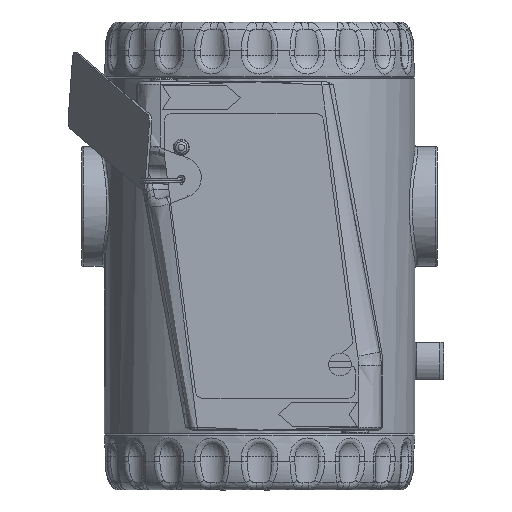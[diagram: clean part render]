
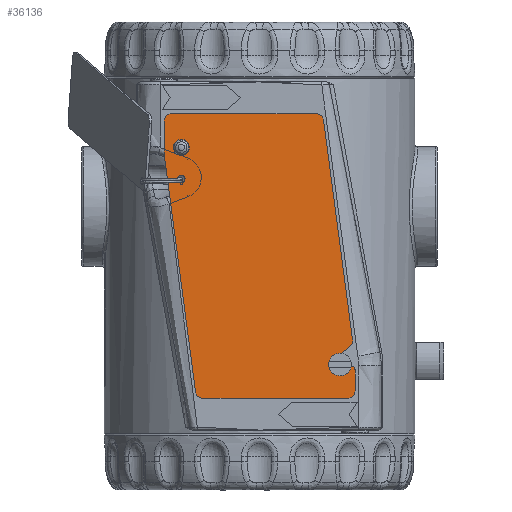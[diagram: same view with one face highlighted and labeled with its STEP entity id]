
A CAD part, left-side view. The second image highlights one B-rep face of the part: STEP entity #36136.
In plain terms, the highlighted planar face has unit normal (-1, 0, 0) as drawn and (0, 0, 1) by its records, which use the part's own axes.
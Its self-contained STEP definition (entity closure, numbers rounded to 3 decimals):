
#1111=PLANE('',#40317);
#1698=FACE_BOUND('',#9521,.T.);
#1699=FACE_BOUND('',#9522,.T.);
#3004=LINE('',#77415,#4625);
#3008=LINE('',#77427,#4629);
#3012=LINE('',#77439,#4633);
#3016=LINE('',#77451,#4637);
#3020=LINE('',#77463,#4641);
#3023=LINE('',#77469,#4644);
#3027=LINE('',#77481,#4648);
#3031=LINE('',#77492,#4652);
#4625=VECTOR('',#48858,10.);
#4629=VECTOR('',#48870,10.);
#4633=VECTOR('',#48882,10.);
#4637=VECTOR('',#48894,10.);
#4641=VECTOR('',#48906,10.);
#4644=VECTOR('',#48911,10.);
#4648=VECTOR('',#48923,10.);
#4652=VECTOR('',#48935,10.);
#7206=FACE_OUTER_BOUND('',#9520,.T.);
#9520=EDGE_LOOP('',(#30549,#30550,#30551,#30552,#30553,#30554,#30555,#30556,
#30557,#30558,#30559,#30560,#30561,#30562,#30563));
#9521=EDGE_LOOP('',(#30564));
#9522=EDGE_LOOP('',(#30565));
#11923=CIRCLE('',#40283,1.35);
#11925=CIRCLE('',#40286,1.);
#11926=CIRCLE('',#40288,2.);
#11928=CIRCLE('',#40292,2.);
#11930=CIRCLE('',#40296,1.);
#11932=CIRCLE('',#40300,2.);
#11934=CIRCLE('',#40304,2.);
#11936=CIRCLE('',#40309,2.);
#11938=CIRCLE('',#40313,2.);
#16320=VERTEX_POINT('',#77395);
#16322=VERTEX_POINT('',#77401);
#16323=VERTEX_POINT('',#77405);
#16324=VERTEX_POINT('',#77406);
#16327=VERTEX_POINT('',#77414);
#16329=VERTEX_POINT('',#77420);
#16331=VERTEX_POINT('',#77426);
#16333=VERTEX_POINT('',#77432);
#16335=VERTEX_POINT('',#77438);
#16337=VERTEX_POINT('',#77444);
#16339=VERTEX_POINT('',#77450);
#16341=VERTEX_POINT('',#77456);
#16343=VERTEX_POINT('',#77462);
#16345=VERTEX_POINT('',#77468);
#16347=VERTEX_POINT('',#77474);
#16349=VERTEX_POINT('',#77480);
#16351=VERTEX_POINT('',#77486);
#21195=EDGE_CURVE('',#16320,#16320,#11923,.T.);
#21198=EDGE_CURVE('',#16322,#16322,#11925,.T.);
#21199=EDGE_CURVE('',#16323,#16324,#11926,.T.);
#21203=EDGE_CURVE('',#16324,#16327,#3004,.T.);
#21206=EDGE_CURVE('',#16327,#16329,#11928,.T.);
#21209=EDGE_CURVE('',#16329,#16331,#3008,.T.);
#21212=EDGE_CURVE('',#16331,#16333,#11930,.T.);
#21215=EDGE_CURVE('',#16333,#16335,#3012,.T.);
#21218=EDGE_CURVE('',#16335,#16337,#11932,.T.);
#21221=EDGE_CURVE('',#16337,#16339,#3016,.T.);
#21224=EDGE_CURVE('',#16339,#16341,#11934,.T.);
#21227=EDGE_CURVE('',#16341,#16343,#3020,.T.);
#21230=EDGE_CURVE('',#16343,#16345,#3023,.T.);
#21233=EDGE_CURVE('',#16345,#16347,#11936,.T.);
#21236=EDGE_CURVE('',#16347,#16349,#3027,.T.);
#21239=EDGE_CURVE('',#16349,#16351,#11938,.T.);
#21242=EDGE_CURVE('',#16351,#16323,#3031,.T.);
#30549=ORIENTED_EDGE('',*,*,#21199,.F.);
#30550=ORIENTED_EDGE('',*,*,#21242,.F.);
#30551=ORIENTED_EDGE('',*,*,#21239,.F.);
#30552=ORIENTED_EDGE('',*,*,#21236,.F.);
#30553=ORIENTED_EDGE('',*,*,#21233,.F.);
#30554=ORIENTED_EDGE('',*,*,#21230,.F.);
#30555=ORIENTED_EDGE('',*,*,#21227,.F.);
#30556=ORIENTED_EDGE('',*,*,#21224,.F.);
#30557=ORIENTED_EDGE('',*,*,#21221,.F.);
#30558=ORIENTED_EDGE('',*,*,#21218,.F.);
#30559=ORIENTED_EDGE('',*,*,#21215,.F.);
#30560=ORIENTED_EDGE('',*,*,#21212,.F.);
#30561=ORIENTED_EDGE('',*,*,#21209,.F.);
#30562=ORIENTED_EDGE('',*,*,#21206,.F.);
#30563=ORIENTED_EDGE('',*,*,#21203,.F.);
#30564=ORIENTED_EDGE('',*,*,#21195,.T.);
#30565=ORIENTED_EDGE('',*,*,#21198,.T.);
#36136=ADVANCED_FACE('',(#7206,#1698,#1699),#1111,.T.);
#40283=AXIS2_PLACEMENT_3D('',#77397,#48839,#48840);
#40286=AXIS2_PLACEMENT_3D('',#77403,#48846,#48847);
#40288=AXIS2_PLACEMENT_3D('',#77407,#48850,#48851);
#40292=AXIS2_PLACEMENT_3D('',#77421,#48863,#48864);
#40296=AXIS2_PLACEMENT_3D('',#77433,#48875,#48876);
#40300=AXIS2_PLACEMENT_3D('',#77445,#48887,#48888);
#40304=AXIS2_PLACEMENT_3D('',#77457,#48899,#48900);
#40309=AXIS2_PLACEMENT_3D('',#77475,#48916,#48917);
#40313=AXIS2_PLACEMENT_3D('',#77487,#48928,#48929);
#40317=AXIS2_PLACEMENT_3D('',#77495,#48939,#48940);
#48839=DIRECTION('center_axis',(0.,0.,-1.));
#48840=DIRECTION('ref_axis',(-1.,0.,0.));
#48846=DIRECTION('center_axis',(0.,0.,-1.));
#48847=DIRECTION('ref_axis',(-1.,0.,0.));
#48850=DIRECTION('center_axis',(0.,0.,-1.));
#48851=DIRECTION('ref_axis',(0.766,0.643,0.));
#48858=DIRECTION('',(0.643,-0.766,0.));
#48863=DIRECTION('center_axis',(0.,0.,1.));
#48864=DIRECTION('ref_axis',(0.766,0.643,0.));
#48870=DIRECTION('',(-0.643,0.766,0.));
#48875=DIRECTION('center_axis',(0.,0.,-1.));
#48876=DIRECTION('ref_axis',(0.,1.,0.));
#48882=DIRECTION('',(1.,0.,0.));
#48887=DIRECTION('center_axis',(0.,0.,-1.));
#48888=DIRECTION('ref_axis',(1.,0.,0.));
#48894=DIRECTION('',(0.,-1.,0.));
#48899=DIRECTION('center_axis',(0.,0.,-1.));
#48900=DIRECTION('ref_axis',(0.131,-0.991,0.));
#48906=DIRECTION('',(-0.991,-0.131,0.));
#48911=DIRECTION('',(-1.,0.,0.));
#48916=DIRECTION('center_axis',(0.,0.,-1.));
#48917=DIRECTION('ref_axis',(-1.,0.,0.));
#48923=DIRECTION('',(0.,1.,0.));
#48928=DIRECTION('center_axis',(0.,0.,-1.));
#48929=DIRECTION('ref_axis',(-0.131,0.991,0.));
#48935=DIRECTION('',(0.991,0.131,0.));
#48939=DIRECTION('center_axis',(0.,0.,1.));
#48940=DIRECTION('ref_axis',(1.,0.,0.));
#77395=CARTESIAN_POINT('',(10.35,4.599,0.7));
#77397=CARTESIAN_POINT('Origin',(9.,4.599,0.7));
#77401=CARTESIAN_POINT('',(18.4,4.599,0.7));
#77403=CARTESIAN_POINT('Origin',(17.4,4.599,0.7));
#77405=CARTESIAN_POINT('',(60.389,50.327,0.7));
#77406=CARTESIAN_POINT('',(62.182,49.63,0.7));
#77407=CARTESIAN_POINT('Origin',(60.65,48.344,0.7));
#77414=CARTESIAN_POINT('',(65.468,45.714,0.7));
#77415=CARTESIAN_POINT('',(65.468,45.714,0.7));
#77420=CARTESIAN_POINT('',(68.532,48.286,0.7));
#77421=CARTESIAN_POINT('Origin',(67.,47.,0.7));
#77426=CARTESIAN_POINT('',(67.633,49.357,0.7));
#77427=CARTESIAN_POINT('',(67.633,49.357,0.7));
#77432=CARTESIAN_POINT('',(68.399,51.,0.7));
#77433=CARTESIAN_POINT('Origin',(68.399,50.,0.7));
#77438=CARTESIAN_POINT('',(74.,51.,0.7));
#77439=CARTESIAN_POINT('',(74.,51.,0.7));
#77444=CARTESIAN_POINT('',(76.,49.,0.7));
#77445=CARTESIAN_POINT('Origin',(74.,49.,0.7));
#77450=CARTESIAN_POINT('',(76.,10.377,0.7));
#77451=CARTESIAN_POINT('',(76.,10.377,0.7));
#77456=CARTESIAN_POINT('',(74.261,8.394,0.7));
#77457=CARTESIAN_POINT('Origin',(74.,10.377,0.7));
#77462=CARTESIAN_POINT('',(10.5,0.,0.7));
#77463=CARTESIAN_POINT('',(10.5,0.,0.7));
#77468=CARTESIAN_POINT('',(2.,0.,0.7));
#77469=CARTESIAN_POINT('',(2.,0.,0.7));
#77474=CARTESIAN_POINT('',(0.,2.,0.7));
#77475=CARTESIAN_POINT('Origin',(2.,2.,0.7));
#77480=CARTESIAN_POINT('',(0.,40.623,0.7));
#77481=CARTESIAN_POINT('',(0.,40.623,0.7));
#77486=CARTESIAN_POINT('',(1.739,42.606,0.7));
#77487=CARTESIAN_POINT('Origin',(2.,40.623,0.7));
#77492=CARTESIAN_POINT('',(60.389,50.327,0.7));
#77495=CARTESIAN_POINT('Origin',(39.077,26.228,0.7));
